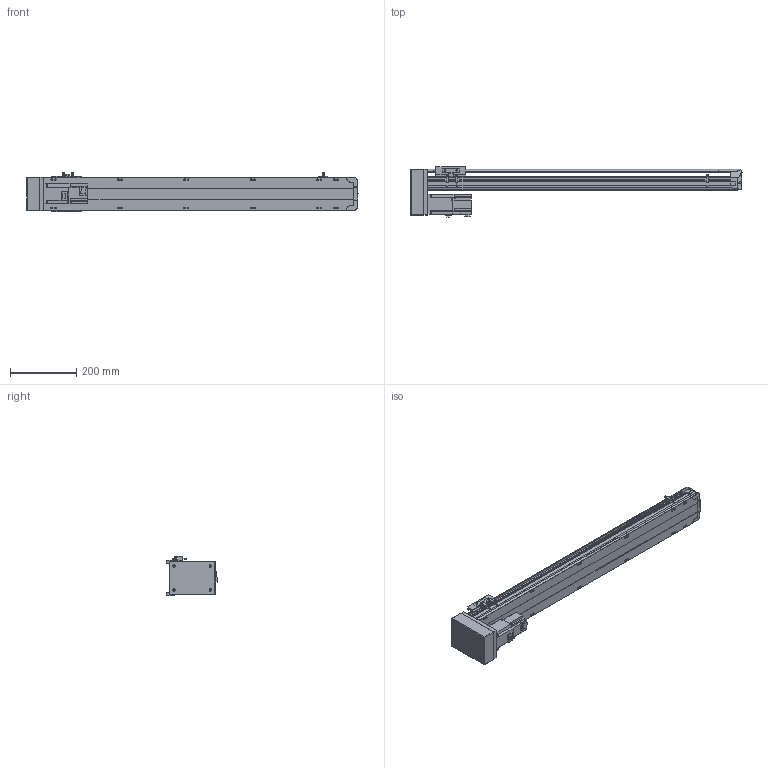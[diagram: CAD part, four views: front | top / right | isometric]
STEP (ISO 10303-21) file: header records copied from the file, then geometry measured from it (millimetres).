
FILE_DESCRIPTION( ( 'STEP AP214' ), '1' );
FILE_NAME( 'x:/temp/worker_27/temp/exporttempdir_6708_76_O2R6w/format_0/PSS120-L10-S750-BM-T40-C1-N(0).stp', '2022-06-06T00:26:51', ( 'License CC BY-ND 4.0' ), ( 'CADENAS' ), ' ', 'PARTsolutions', ' ' );
FILE_SCHEMA( ( 'AUTOMOTIVE_DESIGN { 1 0 10303 214 1 1 1 1 }' ) );
Length unit declared in the file: millimetre
Products named in the file (8): PSS120-L10-S750-BM-T40-C1-N(0); _PSS120-S750-BM-C1-N_body; _PSS120-N_Q; _PSS120-BM-C1-N_sl; _PSS120-N_sensor; _PSS120BM-N_h; _T40-p1; _PSS120-S750-BM-N_S
Assembly tree (9 placements, depth 2):
  PSS120-L10-S750-BM-T40-C1-N(0)
    _PSS120-S750-BM-C1-N_body
    _PSS120-N_Q
    _PSS120-BM-C1-N_sl
    _PSS120-N_sensor  x3
    _PSS120BM-N_h
    _T40-p1
    _PSS120-S750-BM-N_S
Bounding box: 999.35 x 151.8 x 117.7 mm (x, y, z)
Volume: 4117502.2 mm3; surface area: 676758.7 mm2
Topology: 9 solids, 9 shells, 841 faces, 2261 edges, 1500 vertices
Faces by surface type: plane 580, cylinder 237, cone 20, sphere 4
Full cylindrical faces by diameter (mm): 2.8 x3, 4 x4, 4.134 x16, 4.4 x2, 4.5 x4, 4.6 x3, 5 x6, 5.5 x19, 7 x2, 7.4 x4, 8 x4, 8.5 x16, 14 x1, 28 x1, 32 x2, 50 x1
Entity records: 28957 total; most frequent: CARTESIAN_POINT 4520, DIRECTION 3779, ORIENTED_EDGE 3694, EDGE_CURVE 1847, LINE 1305, VECTOR 1305, VERTEX_POINT 1286, AXIS2_PLACEMENT_3D 1237
